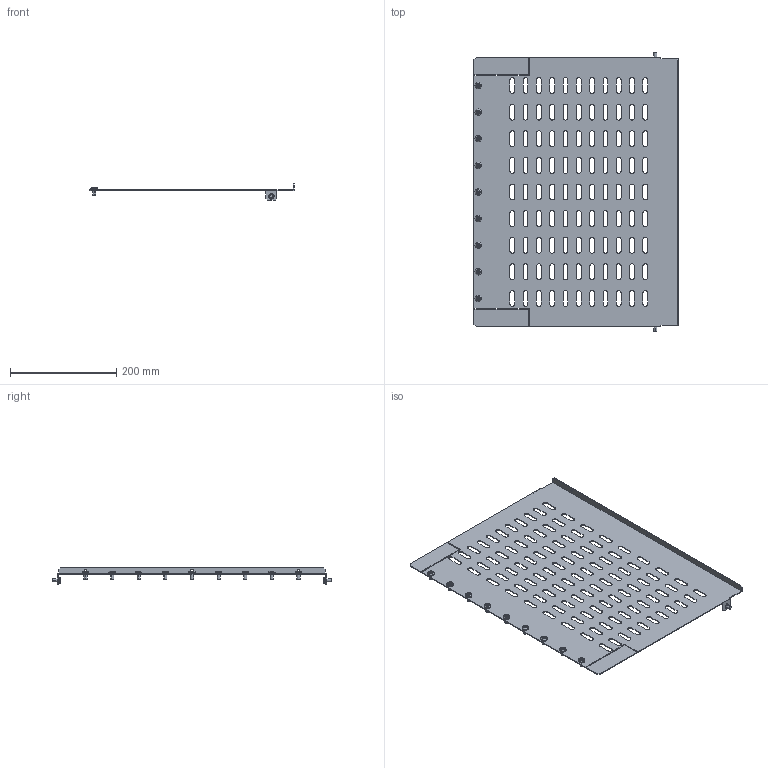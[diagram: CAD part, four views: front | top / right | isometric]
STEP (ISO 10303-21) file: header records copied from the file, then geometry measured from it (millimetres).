
FILE_DESCRIPTION (( 'STEP AP214' ), '1' );
FILE_NAME ('FO-00-SWHR-060 Ïåðåãîðîäêà ñåêöèîíèðîâàíèÿ ãîðèçîíòàëüíàÿ àïïàðàòíîãî îòñåêà øèðèíà 600 ìì.STEP', '2025-08-06T12:11:38', ( '' ), ( '' ), 'SwSTEP 2.0', 'SolidWorks 2023', '' );
FILE_SCHEMA (( 'AUTOMOTIVE_DESIGN' ));
Length unit declared in the file: millimetre
Products named in the file (3): Перегородка секционирования горизонтальная аппаратного отсека ширина 600 мм; FO-00-SWHR-060 Перегородка секционирования горизонтальная аппаратного отсека ширина 600 мм; Винт М6х10 IEK
Assembly tree (12 placements, depth 2):
  FO-00-SWHR-060 Перегородка секционирования горизонтальная аппаратного отсека ширина 600 мм
    Перегородка секционирования горизонтальная аппаратного отсека ширина 600 мм
    Винт М6х10 IEK  x11
Bounding box: 383.5 x 523 x 30.5 mm (x, y, z)
Volume: 269479.3 mm3; surface area: 369610.8 mm2
Topology: 12 solids, 12 shells, 829 faces, 2283 edges, 1500 vertices
Faces by surface type: plane 394, cylinder 270, cone 121, torus 44
Entity records: 18087 total; most frequent: CARTESIAN_POINT 3111, DIRECTION 3081, ORIENTED_EDGE 3066, EDGE_CURVE 1533, LINE 1037, VECTOR 1037, AXIS2_PLACEMENT_3D 1022, VERTEX_POINT 1020
